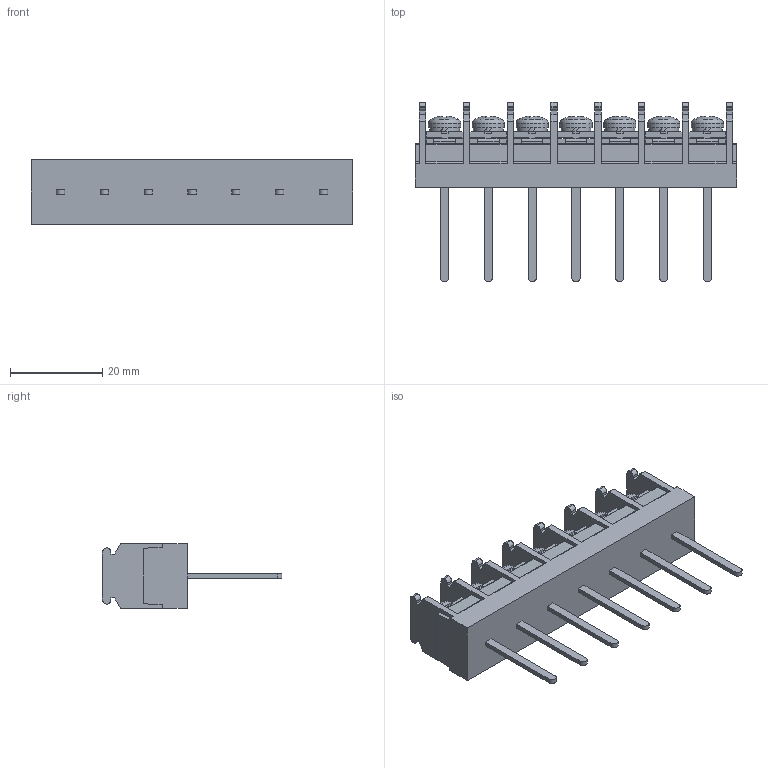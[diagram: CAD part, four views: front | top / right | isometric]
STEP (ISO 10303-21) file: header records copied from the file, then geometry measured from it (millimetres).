
FILE_DESCRIPTION(/* description */ ('Alibre Inc.'),/* implementation_level */ '2;1');
FILE_NAME(/* name */ 'export-AAA68A75-7239-40F1-AC25-0BA617407D0D',/* time_stamp */ '2021-02-13T15:14:25+09:00',/* author */ (''),/* organization */ (''),/* preprocessor_version */ 'ST-DEVELOPER v17',/* originating_system */ 'Alibre',/* authorisation */ '');
FILE_SCHEMA (('CONFIG_CONTROL_DESIGN'));
Length unit declared in the file: millimetre
Bounding box: 69.7 x 39 x 14 mm (x, y, z)
Volume: 12034.4 mm3; surface area: 8734.7 mm2
Topology: 1 solids, 24 shells, 1218 faces, 3401 edges, 2237 vertices
Faces by surface type: plane 902, cylinder 156, bspline 104, cone 35, torus 14, sphere 7
Full cylindrical faces by diameter (mm): 4 x14, 7 x7
Entity records: 37294 total; most frequent: CARTESIAN_POINT 7796, ORIENTED_EDGE 6690, DIRECTION 4793, EDGE_CURVE 3345, VECTOR 2443, LINE 2443, VERTEX_POINT 2223, AXIS2_PLACEMENT_3D 1602
